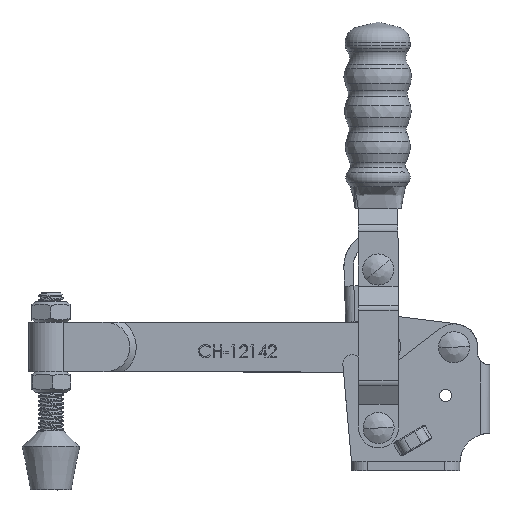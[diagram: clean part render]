
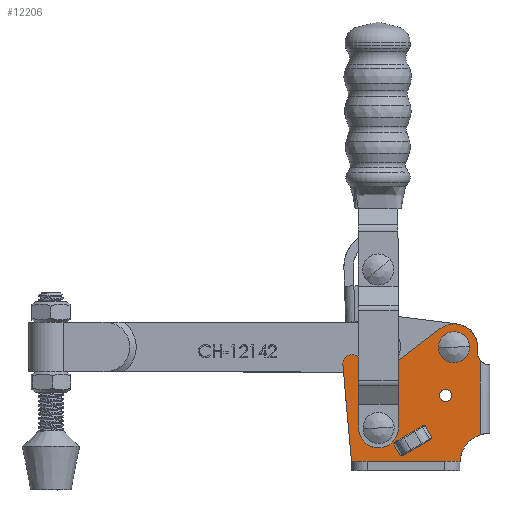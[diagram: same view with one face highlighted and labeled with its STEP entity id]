
A CAD part, top view. The second image highlights one B-rep face of the part: STEP entity #12206.
In plain terms, the highlighted planar face has unit normal (0, 0, 1).
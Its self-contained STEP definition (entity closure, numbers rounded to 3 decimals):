
#359=FACE_BOUND('',#4541,.T.);
#360=FACE_BOUND('',#4542,.T.);
#361=FACE_BOUND('',#4543,.T.);
#362=FACE_BOUND('',#4544,.T.);
#634=PLANE('',#13232);
#1097=B_SPLINE_CURVE_WITH_KNOTS('',3,(#45065,#45066,#45067,#45068),
 .UNSPECIFIED.,.F.,.F.,(4,4),(-0.085,0.),.UNSPECIFIED.);
#1098=B_SPLINE_CURVE_WITH_KNOTS('',3,(#45072,#45073,#45074,#45075),
 .UNSPECIFIED.,.F.,.F.,(4,4),(-0.278,-0.193),
 .UNSPECIFIED.);
#1099=B_SPLINE_CURVE_WITH_KNOTS('',3,(#45079,#45080,#45081,#45082),
 .UNSPECIFIED.,.F.,.F.,(4,4),(-0.085,0.),.UNSPECIFIED.);
#1100=B_SPLINE_CURVE_WITH_KNOTS('',3,(#45085,#45086,#45087,#45088),
 .UNSPECIFIED.,.F.,.F.,(4,4),(-0.278,-0.193),
 .UNSPECIFIED.);
#2150=LINE('',#45042,#3129);
#2151=LINE('',#45044,#3130);
#2152=LINE('',#45048,#3131);
#2153=LINE('',#45052,#3132);
#2154=LINE('',#45056,#3133);
#2155=LINE('',#45059,#3134);
#2156=LINE('',#45060,#3135);
#2157=LINE('',#45063,#3136);
#2158=LINE('',#45070,#3137);
#2159=LINE('',#45077,#3138);
#2160=LINE('',#45084,#3139);
#3129=VECTOR('',#15738,1000.);
#3130=VECTOR('',#15739,1000.);
#3131=VECTOR('',#15742,1000.);
#3132=VECTOR('',#15745,1000.);
#3133=VECTOR('',#15748,1000.);
#3134=VECTOR('',#15751,1000.);
#3135=VECTOR('',#15752,1000.);
#3136=VECTOR('',#15753,1000.);
#3137=VECTOR('',#15754,1000.);
#3138=VECTOR('',#15755,1000.);
#3139=VECTOR('',#15756,1000.);
#3828=FACE_OUTER_BOUND('',#4540,.T.);
#4540=EDGE_LOOP('',(#11240,#11241,#11242,#11243,#11244,#11245,#11246,#11247,
#11248,#11249,#11250,#11251));
#4541=EDGE_LOOP('',(#11252,#11253));
#4542=EDGE_LOOP('',(#11254,#11255));
#4543=EDGE_LOOP('',(#11256,#11257));
#4544=EDGE_LOOP('',(#11258,#11259,#11260,#11261,#11262,#11263,#11264,#11265));
#4912=CIRCLE('',#13207,3.);
#4914=CIRCLE('',#13210,1.95);
#4917=CIRCLE('',#13213,1.95);
#4918=CIRCLE('',#13215,3.2);
#4921=CIRCLE('',#13218,3.2);
#4922=CIRCLE('',#13220,3.2);
#4925=CIRCLE('',#13223,3.2);
#4932=CIRCLE('',#13233,9.5);
#4933=CIRCLE('',#13234,4.);
#4934=CIRCLE('',#13235,7.5);
#4935=CIRCLE('',#13236,7.);
#6078=VERTEX_POINT('',#44962);
#6079=VERTEX_POINT('',#44963);
#6082=VERTEX_POINT('',#44971);
#6083=VERTEX_POINT('',#44972);
#6086=VERTEX_POINT('',#44981);
#6087=VERTEX_POINT('',#44982);
#6090=VERTEX_POINT('',#44991);
#6091=VERTEX_POINT('',#44992);
#6112=VERTEX_POINT('',#45040);
#6113=VERTEX_POINT('',#45041);
#6114=VERTEX_POINT('',#45043);
#6115=VERTEX_POINT('',#45045);
#6116=VERTEX_POINT('',#45047);
#6117=VERTEX_POINT('',#45049);
#6118=VERTEX_POINT('',#45051);
#6119=VERTEX_POINT('',#45053);
#6120=VERTEX_POINT('',#45055);
#6121=VERTEX_POINT('',#45057);
#6122=VERTEX_POINT('',#45061);
#6123=VERTEX_POINT('',#45062);
#6124=VERTEX_POINT('',#45064);
#6125=VERTEX_POINT('',#45069);
#6126=VERTEX_POINT('',#45071);
#6127=VERTEX_POINT('',#45076);
#6128=VERTEX_POINT('',#45078);
#6129=VERTEX_POINT('',#45083);
#7811=EDGE_CURVE('',#6078,#6079,#4912,.T.);
#7815=EDGE_CURVE('',#6082,#6083,#4914,.T.);
#7819=EDGE_CURVE('',#6083,#6082,#4917,.T.);
#7820=EDGE_CURVE('',#6086,#6087,#4918,.T.);
#7824=EDGE_CURVE('',#6087,#6086,#4921,.T.);
#7825=EDGE_CURVE('',#6090,#6091,#4922,.T.);
#7829=EDGE_CURVE('',#6091,#6090,#4925,.T.);
#7849=EDGE_CURVE('',#6112,#6113,#2150,.T.);
#7850=EDGE_CURVE('',#6114,#6112,#2151,.T.);
#7851=EDGE_CURVE('',#6114,#6115,#4932,.T.);
#7852=EDGE_CURVE('',#6115,#6116,#2152,.T.);
#7853=EDGE_CURVE('',#6116,#6117,#4933,.T.);
#7854=EDGE_CURVE('',#6117,#6118,#2153,.T.);
#7855=EDGE_CURVE('',#6118,#6119,#4934,.T.);
#7856=EDGE_CURVE('',#6119,#6120,#2154,.T.);
#7857=EDGE_CURVE('',#6120,#6121,#4935,.T.);
#7858=EDGE_CURVE('',#6121,#6078,#2155,.T.);
#7859=EDGE_CURVE('',#6079,#6113,#2156,.T.);
#7860=EDGE_CURVE('',#6122,#6123,#2157,.T.);
#7861=EDGE_CURVE('',#6122,#6124,#1097,.T.);
#7862=EDGE_CURVE('',#6124,#6125,#2158,.T.);
#7863=EDGE_CURVE('',#6125,#6126,#1098,.T.);
#7864=EDGE_CURVE('',#6127,#6126,#2159,.T.);
#7865=EDGE_CURVE('',#6127,#6128,#1099,.T.);
#7866=EDGE_CURVE('',#6128,#6129,#2160,.T.);
#7867=EDGE_CURVE('',#6129,#6123,#1100,.T.);
#11240=ORIENTED_EDGE('',*,*,#7849,.F.);
#11241=ORIENTED_EDGE('',*,*,#7850,.F.);
#11242=ORIENTED_EDGE('',*,*,#7851,.T.);
#11243=ORIENTED_EDGE('',*,*,#7852,.T.);
#11244=ORIENTED_EDGE('',*,*,#7853,.T.);
#11245=ORIENTED_EDGE('',*,*,#7854,.T.);
#11246=ORIENTED_EDGE('',*,*,#7855,.T.);
#11247=ORIENTED_EDGE('',*,*,#7856,.T.);
#11248=ORIENTED_EDGE('',*,*,#7857,.T.);
#11249=ORIENTED_EDGE('',*,*,#7858,.T.);
#11250=ORIENTED_EDGE('',*,*,#7811,.T.);
#11251=ORIENTED_EDGE('',*,*,#7859,.T.);
#11252=ORIENTED_EDGE('',*,*,#7820,.F.);
#11253=ORIENTED_EDGE('',*,*,#7824,.F.);
#11254=ORIENTED_EDGE('',*,*,#7825,.F.);
#11255=ORIENTED_EDGE('',*,*,#7829,.F.);
#11256=ORIENTED_EDGE('',*,*,#7815,.F.);
#11257=ORIENTED_EDGE('',*,*,#7819,.F.);
#11258=ORIENTED_EDGE('',*,*,#7860,.F.);
#11259=ORIENTED_EDGE('',*,*,#7861,.T.);
#11260=ORIENTED_EDGE('',*,*,#7862,.T.);
#11261=ORIENTED_EDGE('',*,*,#7863,.T.);
#11262=ORIENTED_EDGE('',*,*,#7864,.F.);
#11263=ORIENTED_EDGE('',*,*,#7865,.T.);
#11264=ORIENTED_EDGE('',*,*,#7866,.T.);
#11265=ORIENTED_EDGE('',*,*,#7867,.T.);
#12206=ADVANCED_FACE('',(#3828,#359,#360,#361,#362),#634,.T.);
#13207=AXIS2_PLACEMENT_3D('',#44964,#15668,#15669);
#13210=AXIS2_PLACEMENT_3D('',#44973,#15676,#15677);
#13213=AXIS2_PLACEMENT_3D('',#44979,#15683,#15684);
#13215=AXIS2_PLACEMENT_3D('',#44983,#15687,#15688);
#13218=AXIS2_PLACEMENT_3D('',#44989,#15694,#15695);
#13220=AXIS2_PLACEMENT_3D('',#44993,#15698,#15699);
#13223=AXIS2_PLACEMENT_3D('',#44999,#15705,#15706);
#13232=AXIS2_PLACEMENT_3D('',#45039,#15736,#15737);
#13233=AXIS2_PLACEMENT_3D('',#45046,#15740,#15741);
#13234=AXIS2_PLACEMENT_3D('',#45050,#15743,#15744);
#13235=AXIS2_PLACEMENT_3D('',#45054,#15746,#15747);
#13236=AXIS2_PLACEMENT_3D('',#45058,#15749,#15750);
#15668=DIRECTION('center_axis',(0.,0.,1.));
#15669=DIRECTION('ref_axis',(1.,0.,0.));
#15676=DIRECTION('center_axis',(0.,0.,1.));
#15677=DIRECTION('ref_axis',(1.,0.,0.));
#15683=DIRECTION('center_axis',(0.,0.,1.));
#15684=DIRECTION('ref_axis',(1.,0.,0.));
#15687=DIRECTION('center_axis',(0.,0.,1.));
#15688=DIRECTION('ref_axis',(1.,0.,0.));
#15694=DIRECTION('center_axis',(0.,0.,1.));
#15695=DIRECTION('ref_axis',(1.,0.,0.));
#15698=DIRECTION('center_axis',(0.,0.,1.));
#15699=DIRECTION('ref_axis',(1.,0.,0.));
#15705=DIRECTION('center_axis',(0.,0.,1.));
#15706=DIRECTION('ref_axis',(1.,0.,0.));
#15736=DIRECTION('center_axis',(0.,0.,1.));
#15737=DIRECTION('ref_axis',(1.,0.,0.));
#15738=DIRECTION('',(-1.,0.,0.));
#15739=DIRECTION('',(0.,1.,0.));
#15740=DIRECTION('center_axis',(0.,0.,-1.));
#15741=DIRECTION('ref_axis',(1.,0.,0.));
#15742=DIRECTION('',(0.,1.,0.));
#15743=DIRECTION('center_axis',(0.,0.,-1.));
#15744=DIRECTION('ref_axis',(1.,0.,0.));
#15745=DIRECTION('',(0.,1.,0.));
#15746=DIRECTION('center_axis',(0.,0.,1.));
#15747=DIRECTION('ref_axis',(1.,0.,0.));
#15748=DIRECTION('',(-0.792,-0.611,0.));
#15749=DIRECTION('center_axis',(0.,0.,-1.));
#15750=DIRECTION('ref_axis',(1.,0.,0.));
#15751=DIRECTION('',(-0.677,0.736,0.));
#15752=DIRECTION('',(0.09,-0.996,0.));
#15753=DIRECTION('',(0.866,0.5,0.));
#15754=DIRECTION('',(-0.5,0.866,0.));
#15755=DIRECTION('',(-0.866,-0.5,0.));
#15756=DIRECTION('',(0.5,-0.866,0.));
#44962=CARTESIAN_POINT('',(-32.494,36.33,12.));
#44963=CARTESIAN_POINT('',(-37.691,34.031,12.));
#44964=CARTESIAN_POINT('Origin',(-34.703,34.3,12.));
#44971=CARTESIAN_POINT('',(-6.55,24.2,12.));
#44972=CARTESIAN_POINT('',(-2.65,24.2,12.));
#44973=CARTESIAN_POINT('Origin',(-4.6,24.2,12.));
#44979=CARTESIAN_POINT('Origin',(-4.6,24.2,12.));
#44981=CARTESIAN_POINT('',(-29.4,13.7,12.));
#44982=CARTESIAN_POINT('',(-23.,13.7,12.));
#44983=CARTESIAN_POINT('Origin',(-26.2,13.7,12.));
#44989=CARTESIAN_POINT('Origin',(-26.2,13.7,12.));
#44991=CARTESIAN_POINT('',(-5.1,39.7,12.));
#44992=CARTESIAN_POINT('',(1.3,39.7,12.));
#44993=CARTESIAN_POINT('Origin',(-1.9,39.7,12.));
#44999=CARTESIAN_POINT('Origin',(-1.9,39.7,12.));
#45039=CARTESIAN_POINT('Origin',(9.5,2.5,12.));
#45040=CARTESIAN_POINT('',(0.,3.,12.));
#45041=CARTESIAN_POINT('',(-34.9,3.,12.));
#45042=CARTESIAN_POINT('',(0.,3.,12.));
#45043=CARTESIAN_POINT('',(0.,2.5,12.));
#45044=CARTESIAN_POINT('',(0.,0.,12.));
#45045=CARTESIAN_POINT('',(6.6,11.547,12.));
#45046=CARTESIAN_POINT('Origin',(9.5,2.5,12.));
#45047=CARTESIAN_POINT('',(6.6,35.354,12.));
#45048=CARTESIAN_POINT('',(6.6,34.,12.));
#45049=CARTESIAN_POINT('',(5.6,38.,12.));
#45050=CARTESIAN_POINT('Origin',(9.6,38.,12.));
#45051=CARTESIAN_POINT('',(5.6,39.7,12.));
#45052=CARTESIAN_POINT('',(5.6,39.7,12.));
#45053=CARTESIAN_POINT('',(-6.481,45.639,12.));
#45054=CARTESIAN_POINT('Origin',(-1.9,39.7,12.));
#45055=CARTESIAN_POINT('',(-21.625,33.957,12.));
#45056=CARTESIAN_POINT('',(-21.625,33.957,12.));
#45057=CARTESIAN_POINT('',(-31.053,34.763,12.));
#45058=CARTESIAN_POINT('Origin',(-25.9,39.5,12.));
#45059=CARTESIAN_POINT('',(-32.494,36.33,12.));
#45060=CARTESIAN_POINT('',(-34.9,3.,12.));
#45061=CARTESIAN_POINT('',(-18.317,4.914,12.));
#45062=CARTESIAN_POINT('',(-9.583,9.956,12.));
#45063=CARTESIAN_POINT('',(-18.28,4.935,12.));
#45064=CARTESIAN_POINT('',(-19.186,4.758,12.));
#45065=CARTESIAN_POINT('Ctrl Pts',(-18.317,4.914,12.));
#45066=CARTESIAN_POINT('Ctrl Pts',(-18.562,4.772,12.));
#45067=CARTESIAN_POINT('Ctrl Pts',(-18.903,4.765,12.));
#45068=CARTESIAN_POINT('Ctrl Pts',(-19.186,4.758,12.));
#45069=CARTESIAN_POINT('',(-21.386,8.569,12.));
#45070=CARTESIAN_POINT('',(-21.536,8.829,12.));
#45071=CARTESIAN_POINT('',(-20.817,9.244,12.));
#45072=CARTESIAN_POINT('Ctrl Pts',(-21.386,8.569,12.));
#45073=CARTESIAN_POINT('Ctrl Pts',(-21.239,8.811,12.));
#45074=CARTESIAN_POINT('Ctrl Pts',(-21.062,9.102,12.));
#45075=CARTESIAN_POINT('Ctrl Pts',(-20.817,9.244,12.));
#45076=CARTESIAN_POINT('',(-12.083,14.286,12.));
#45077=CARTESIAN_POINT('',(-20.78,9.265,12.));
#45078=CARTESIAN_POINT('',(-11.214,14.442,12.));
#45079=CARTESIAN_POINT('Ctrl Pts',(-12.083,14.286,12.));
#45080=CARTESIAN_POINT('Ctrl Pts',(-11.838,14.428,12.));
#45081=CARTESIAN_POINT('Ctrl Pts',(-11.497,14.435,12.));
#45082=CARTESIAN_POINT('Ctrl Pts',(-11.214,14.442,12.));
#45083=CARTESIAN_POINT('',(-9.014,10.631,12.));
#45084=CARTESIAN_POINT('',(-8.864,10.371,12.));
#45085=CARTESIAN_POINT('Ctrl Pts',(-9.014,10.631,12.));
#45086=CARTESIAN_POINT('Ctrl Pts',(-9.161,10.389,12.));
#45087=CARTESIAN_POINT('Ctrl Pts',(-9.338,10.098,12.));
#45088=CARTESIAN_POINT('Ctrl Pts',(-9.583,9.956,12.));
